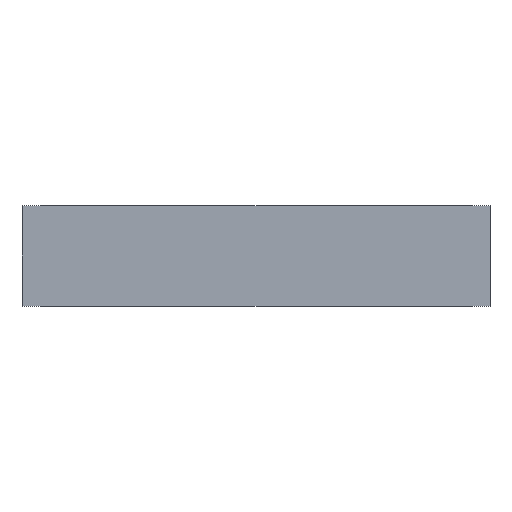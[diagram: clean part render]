
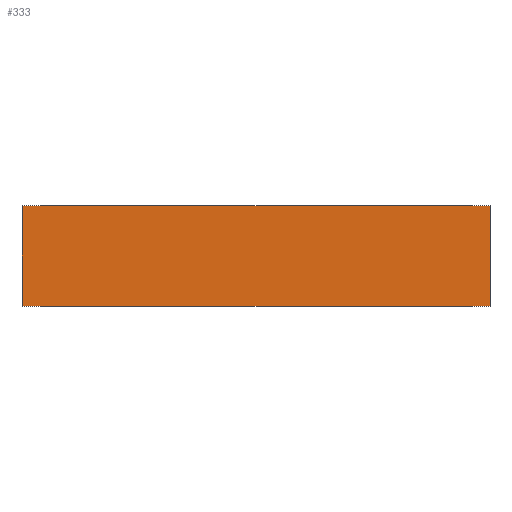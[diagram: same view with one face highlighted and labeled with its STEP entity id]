
A CAD part, front view. The second image highlights one B-rep face of the part: STEP entity #333.
In plain terms, the highlighted planar face has unit normal (0, -1, 0).
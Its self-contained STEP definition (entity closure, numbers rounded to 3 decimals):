
#22 = AXIS2_PLACEMENT_3D ( 'NONE', #418, #410, #409 ) ;
#23 = EDGE_CURVE ( 'NONE', #491, #519, #209, .T. ) ;
#24 = EDGE_CURVE ( 'NONE', #499, #519, #207, .T. ) ;
#29 = EDGE_CURVE ( 'NONE', #535, #499, #192, .T. ) ;
#36 = EDGE_CURVE ( 'NONE', #535, #491, #201, .T. ) ;
#115 = FACE_OUTER_BOUND ( 'NONE', #238, .T. ) ;
#186 = VECTOR ( 'NONE', #556, 1000. ) ;
#191 = VECTOR ( 'NONE', #565, 1000. ) ;
#192 = LINE ( 'NONE', #566, #191 ) ;
#201 = LINE ( 'NONE', #575, #186 ) ;
#202 = VECTOR ( 'NONE', #579, 1000. ) ;
#204 = VECTOR ( 'NONE', #582, 1000. ) ;
#207 = LINE ( 'NONE', #337, #202 ) ;
#209 = LINE ( 'NONE', #351, #204 ) ;
#238 = EDGE_LOOP ( 'NONE', ( #254, #255, #256, #257 ) ) ;
#254 = ORIENTED_EDGE ( 'NONE', *, *, #23, .T. ) ;
#255 = ORIENTED_EDGE ( 'NONE', *, *, #24, .F. ) ;
#256 = ORIENTED_EDGE ( 'NONE', *, *, #29, .F. ) ;
#257 = ORIENTED_EDGE ( 'NONE', *, *, #36, .T. ) ;
#333 = ADVANCED_FACE ( 'NONE', ( #115 ), #422, .F. ) ;
#337 = CARTESIAN_POINT ( 'NONE',  ( 151., 0., 65. ) ) ;
#351 = CARTESIAN_POINT ( 'NONE',  ( -151., 0., 0. ) ) ;
#382 = CARTESIAN_POINT ( 'NONE',  ( -151., 0., 65. ) ) ;
#387 = CARTESIAN_POINT ( 'NONE',  ( 151., 0., 0. ) ) ;
#393 = CARTESIAN_POINT ( 'NONE',  ( 151., 0., 65. ) ) ;
#400 = CARTESIAN_POINT ( 'NONE',  ( -151., 0., 0. ) ) ;
#409 = DIRECTION ( 'NONE',  ( -1., 0., 0. ) ) ;
#410 = DIRECTION ( 'NONE',  ( 0., 1., 0. ) ) ;
#418 = CARTESIAN_POINT ( 'NONE',  ( -151., 0., 65. ) ) ;
#422 = PLANE ( 'NONE',  #22 ) ;
#491 = VERTEX_POINT ( 'NONE', #400 ) ;
#499 = VERTEX_POINT ( 'NONE', #393 ) ;
#519 = VERTEX_POINT ( 'NONE', #387 ) ;
#535 = VERTEX_POINT ( 'NONE', #382 ) ;
#556 = DIRECTION ( 'NONE',  ( 0., 0., -1. ) ) ;
#565 = DIRECTION ( 'NONE',  ( 1., 0., 0. ) ) ;
#566 = CARTESIAN_POINT ( 'NONE',  ( -151., 0., 65. ) ) ;
#575 = CARTESIAN_POINT ( 'NONE',  ( -151., 0., 65. ) ) ;
#579 = DIRECTION ( 'NONE',  ( 0., 0., -1. ) ) ;
#582 = DIRECTION ( 'NONE',  ( 1., 0., 0. ) ) ;
